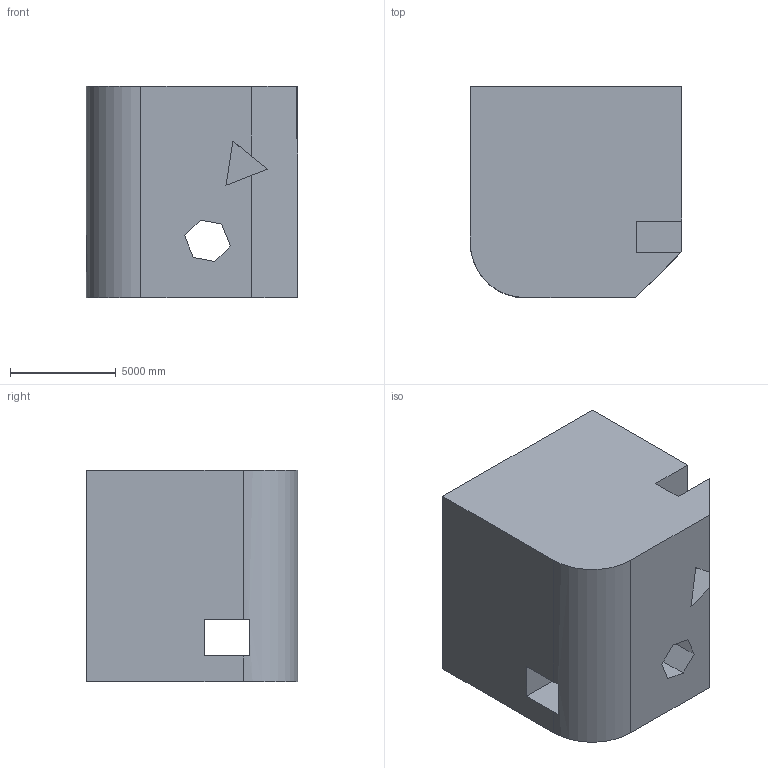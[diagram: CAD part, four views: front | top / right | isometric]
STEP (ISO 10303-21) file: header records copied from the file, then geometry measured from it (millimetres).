
FILE_DESCRIPTION (( 'STEP AP203' ), '1' );
FILE_NAME ('671.STEP', '2022-08-04T15:35:54', ( 'user' ), ( '' ), 'SwSTEP 2.0', 'SolidWorks 2021', '' );
FILE_SCHEMA (( 'CONFIG_CONTROL_DESIGN' ));
Length unit declared in the file: centimetre
Products named in the file (1): 671
Bounding box: 10000 x 10000 x 10000 mm (x, y, z)
Volume: 879663193771.4 mm3; surface area: 710658719.5 mm2
Topology: 1 solids, 1 shells, 34 faces, 114 edges, 76 vertices
Faces by surface type: plane 31, cylinder 3
Entity records: 1327 total; most frequent: CARTESIAN_POINT 237, ORIENTED_EDGE 228, DIRECTION 192, EDGE_CURVE 114, LINE 98, VECTOR 98, VERTEX_POINT 76, AXIS2_PLACEMENT_3D 47
